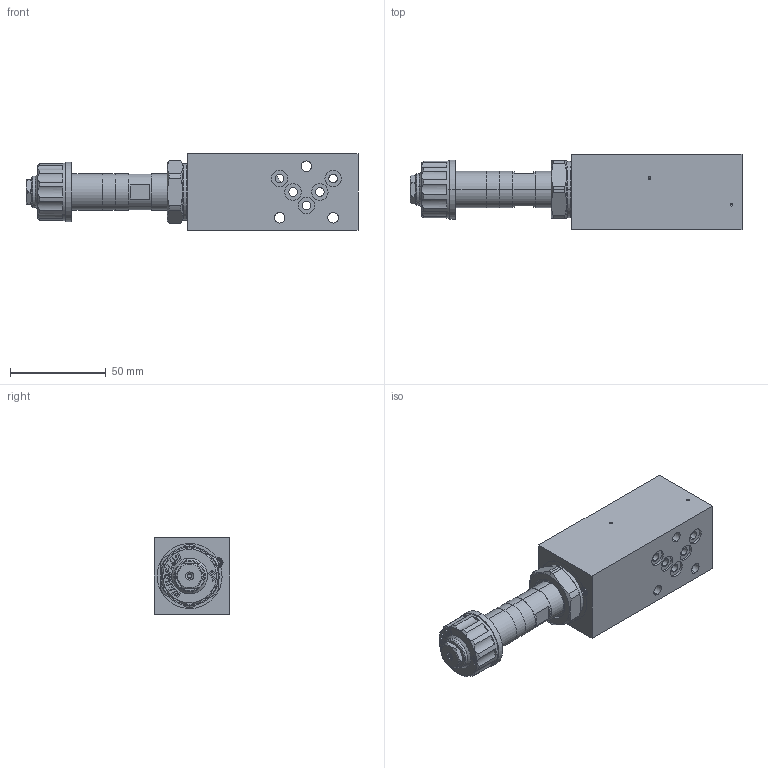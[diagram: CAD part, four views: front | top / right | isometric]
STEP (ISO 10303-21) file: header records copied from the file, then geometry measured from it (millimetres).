
FILE_DESCRIPTION (( 'STEP AP214' ), '1' );
FILE_NAME ('B.PSA04-A.STEP', '2017-03-23T14:55:12', ( '' ), ( '' ), 'SwSTEP 2.0', 'SolidWorks 2016', '' );
FILE_SCHEMA (( 'AUTOMOTIVE_DESIGN' ));
Length unit declared in the file: millimetre
Products named in the file (1): B.PSA04-A
Bounding box: 173.8 x 39.5 x 40 mm (x, y, z)
Volume: 168927.9 mm3; surface area: 32044.3 mm2
Topology: 2 solids, 2 shells, 370 faces, 920 edges, 589 vertices
Faces by surface type: plane 183, cylinder 104, cone 59, bspline 16, torus 6, sphere 2
Entity records: 16004 total; most frequent: CARTESIAN_POINT 3388, ORIENTED_EDGE 1832, DIRECTION 1822, EDGE_CURVE 916, AXIS2_PLACEMENT_3D 655, VERTEX_POINT 589, VECTOR 512, LINE 512
